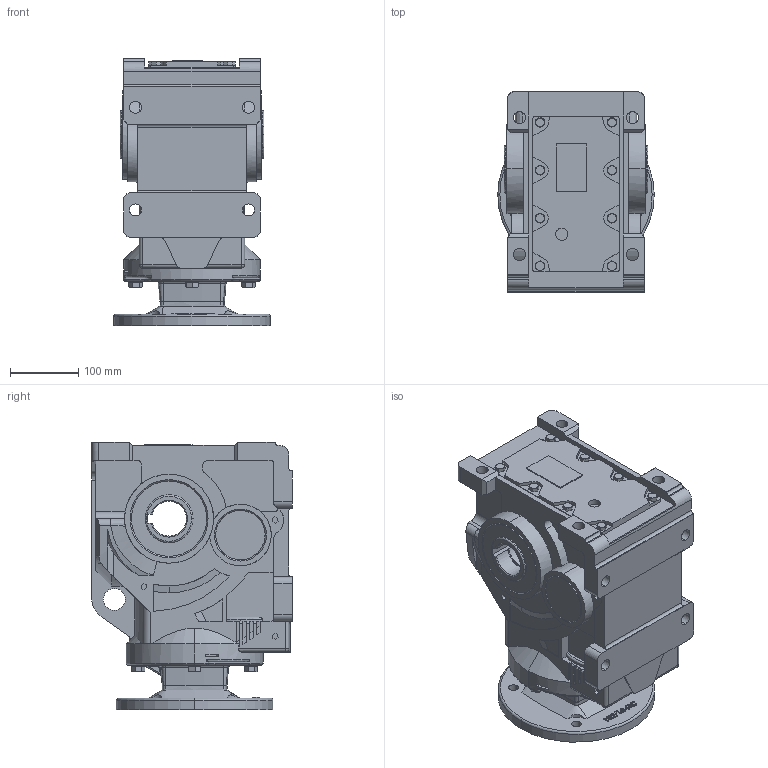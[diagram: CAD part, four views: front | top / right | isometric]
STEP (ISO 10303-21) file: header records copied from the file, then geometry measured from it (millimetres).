
FILE_DESCRIPTION (( 'STEP AP203' ), '1' );
FILE_NAME ('KHN77-182-4TC.STEP', '2022-04-08T00:38:54', ( 'Microsoft' ), ( 'Microsoft' ), 'SwSTEP 2.0', 'SolidWorks 2012', '' );
FILE_SCHEMA (( 'CONFIG_CONTROL_DESIGN' ));
Products named in the file (1): KHN77-182-4TC
Bounding box: 228.6 x 293 x 391.5 mm (x, y, z)
Volume: 14070074.5 mm3; surface area: 628689 mm2
Topology: 1 solids, 21 shells, 1183 faces, 3029 edges, 1938 vertices
Faces by surface type: plane 621, cylinder 292, cone 126, bspline 110, torus 28, sphere 6
Entity records: 45329 total; most frequent: CARTESIAN_POINT 17218, ORIENTED_EDGE 5998, DIRECTION 5493, EDGE_CURVE 2999, VERTEX_POINT 1938, AXIS2_PLACEMENT_3D 1886, LINE 1721, VECTOR 1721
